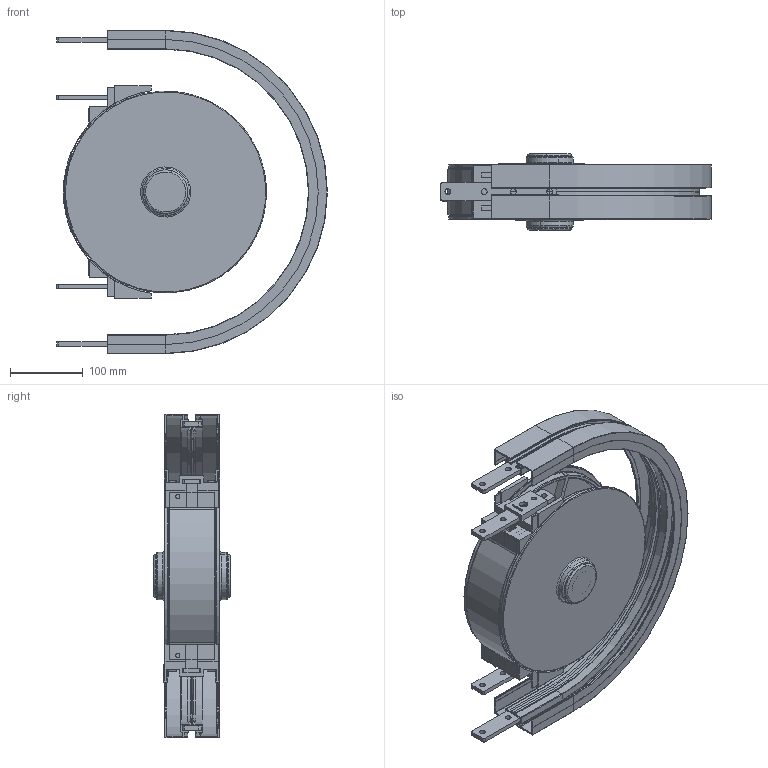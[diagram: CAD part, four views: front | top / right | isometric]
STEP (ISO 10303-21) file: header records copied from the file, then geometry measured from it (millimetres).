
FILE_DESCRIPTION (( 'STEP AP214' ), '1' );
FILE_NAME ('FCWB180R170A.STEP', '2012-04-04T10:02:42', ( 'gs' ), ( 'Microsoft' ), 'SwSTEP 2.0', 'SolidWorks 2011', '' );
FILE_SCHEMA (( 'AUTOMOTIVE_DESIGN' ));
Length unit declared in the file: millimetre
Products named in the file (12): WH63002-1; FACS-25X160-M2; FCWB90R170-CB_180<Brut d''usinage>; WH278063; FAEC-WH_Default; 6004ZZ; 20 ExternalCirclip; FACS-25X140A_Default; FC-WH103001-0_Default; WHA-FM001_Default; WH08001A-3_Default; FCWB180R170A
Assembly tree (25 placements, depth 2):
  FCWB180R170A
    WH278063  x2
    6004ZZ  x4
    20 ExternalCirclip  x6
    FACS-25X160-M2  x2
    WH08001A-3_Default  x2
    FCWB90R170-CB_180<Brut d''usinage>
    FAEC-WH_Default  x2
    WH63002-1
    FACS-25X140A_Default  x2
    FC-WH103001-0_Default  x2
    WHA-FM001_Default
Bounding box: 372.5 x 105.6 x 445 mm (x, y, z)
Volume: 1851446.4 mm3; surface area: 869868.4 mm2
Topology: 25 solids, 25 shells, 1325 faces, 3447 edges, 2238 vertices
Faces by surface type: plane 674, cylinder 458, torus 94, bspline 64, cone 35
Entity records: 27330 total; most frequent: CARTESIAN_POINT 8079, ORIENTED_EDGE 3784, DIRECTION 3780, EDGE_CURVE 1892, AXIS2_PLACEMENT_3D 1317, VERTEX_POINT 1206, VECTOR 1146, LINE 1146
